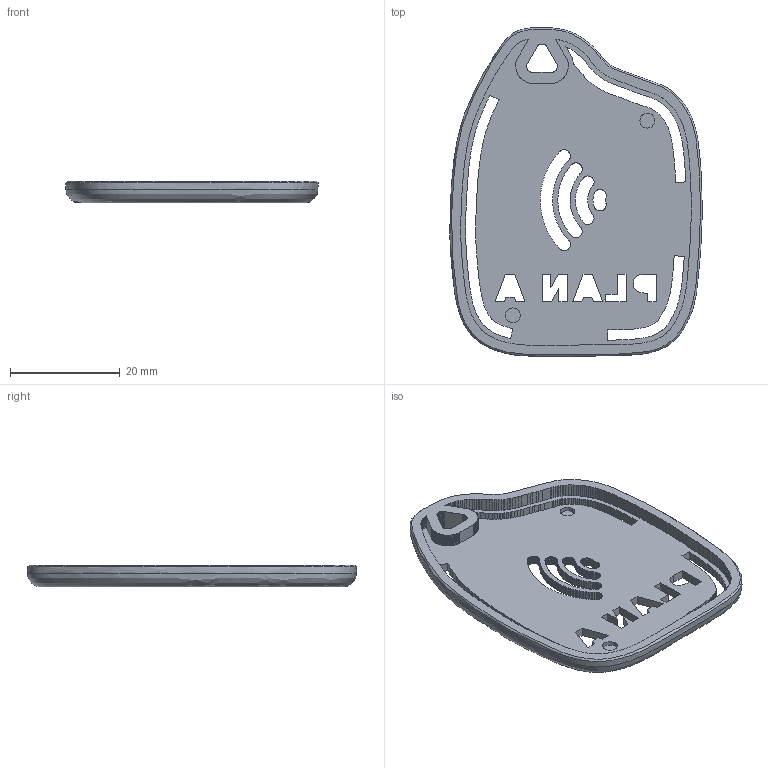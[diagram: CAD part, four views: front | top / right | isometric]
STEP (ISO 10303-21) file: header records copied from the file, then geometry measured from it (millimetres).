
FILE_DESCRIPTION(('Open CASCADE Model'),'2;1');
FILE_NAME('Open CASCADE Shape Model','2026-10-15T03:32:01',('Author'),( 'Open CASCADE'),'Open CASCADE STEP processor 7.9','Open CASCADE 7.9' ,'Unknown');
FILE_SCHEMA(('AUTOMOTIVE_DESIGN { 1 0 10303 214 1 1 1 1 }'));
Products named in the file (1): Open CASCADE STEP translator 7.9 2
Bounding box: 46 x 59.99 x 4 mm (x, y, z)
Volume: 3766.8 mm3; surface area: 5552.6 mm2
Topology: 1 solids, 1 shells, 1358 faces, 4057 edges, 2704 vertices
Faces by surface type: plane 1353, bspline 2, cylinder 2, extrusion 1
Full cylindrical faces by diameter (mm): 2.7 x2
Entity records: 102586 total; most frequent: CARTESIAN_POINT 30698, DIRECTION 10208, ORIENTED_EDGE 8114, PCURVE 8114, DEFINITIONAL_REPRESENTATION 8114, VECTOR 7484, LINE 7483, B_SPLINE_CURVE_WITH_KNOTS 4678
